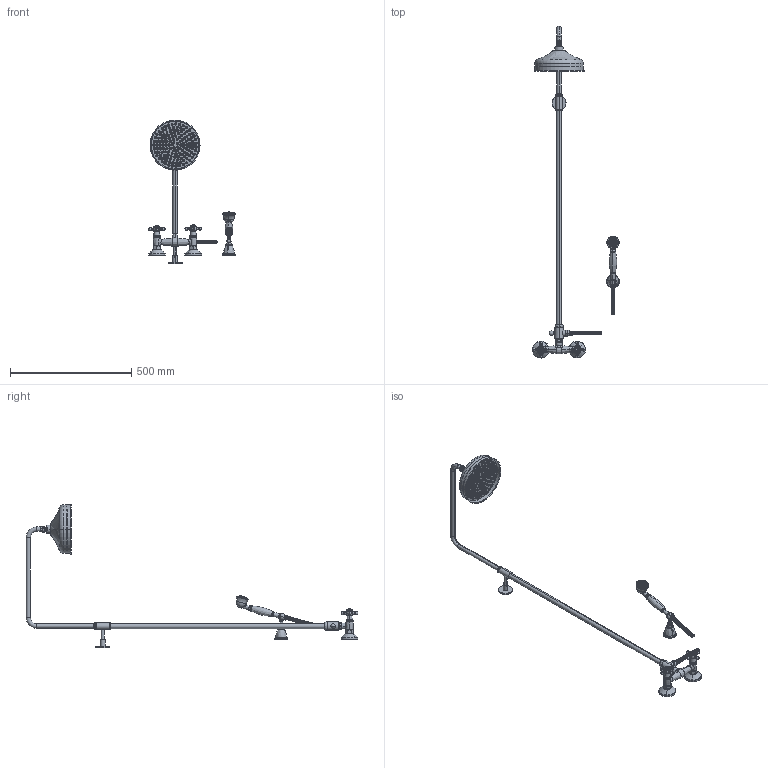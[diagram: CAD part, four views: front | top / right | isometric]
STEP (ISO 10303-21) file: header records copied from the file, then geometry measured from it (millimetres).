
FILE_DESCRIPTION((''),'2;1');
FILE_NAME('37500--_SW0001','2026-10-01T15:54:41',('simi1'),(''),'CREO PARAMETRIC BY PTC INC, 2022244','CREO PARAMETRIC BY PTC INC, 2022244','');
FILE_SCHEMA(('CONFIG_CONTROL_DESIGN'));
Products named in the file (1): 37500--_SW0001
Bounding box: 358.76 x 1368.83 x 593.24 mm (x, y, z)
Surface area: 401930 mm2 (no closed solid volume)
Topology: 0 solids, 368 shells, 1379 faces, 3544 edges, 2354 vertices
Faces by surface type: torus 470, cone 317, plane 224, cylinder 220, bspline 110, sphere 38
Entity records: 66589 total; most frequent: CARTESIAN_POINT 34085, DIRECTION 7670, ORIENTED_EDGE 5703, EDGE_CURVE 3512, AXIS2_PLACEMENT_3D 3477, VERTEX_POINT 2354, CIRCLE 2208, EDGE_LOOP 1379
